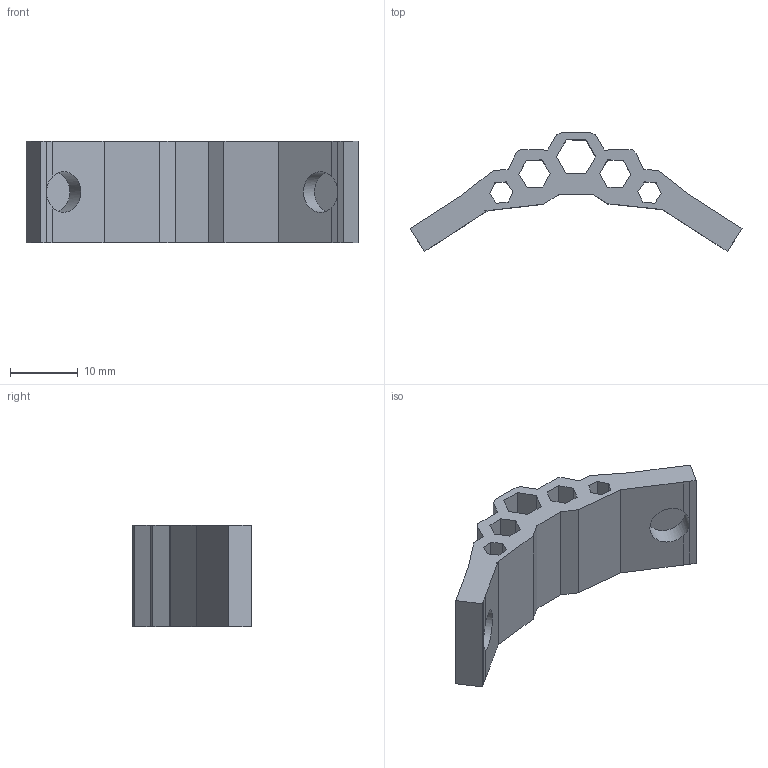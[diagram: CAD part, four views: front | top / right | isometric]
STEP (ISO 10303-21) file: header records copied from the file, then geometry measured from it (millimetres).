
FILE_DESCRIPTION(/* description */ (''),/* implementation_level */ '2;1');
FILE_NAME(/* name */ '6_magnet_holder_JARVIS_airpath v1.step',/* time_stamp */ '2023-06-05T13:36:50+02:00',/* author */ (''),/* organization */ (''),/* preprocessor_version */ 'ST-DEVELOPER v19.2',/* originating_system */ 'Autodesk Translation Framework v12.6.0.85',/* authorisation */ '');
FILE_SCHEMA (('AUTOMOTIVE_DESIGN { 1 0 10303 214 3 1 1 }'));
Length unit declared in the file: millimetre
Products named in the file (1): 4_endcap_JARVIS_airpath
Bounding box: 48.93 x 17.48 x 15 mm (x, y, z)
Volume: 3350.4 mm3; surface area: 3341.9 mm2
Topology: 1 solids, 1 shells, 72 faces, 210 edges, 140 vertices
Faces by surface type: plane 70, cylinder 2
Full cylindrical faces by diameter (mm): 6 x2
Entity records: 2432 total; most frequent: CARTESIAN_POINT 423, ORIENTED_EDGE 420, DIRECTION 366, EDGE_CURVE 210, LINE 200, VECTOR 200, VERTEX_POINT 140, EDGE_LOOP 84
